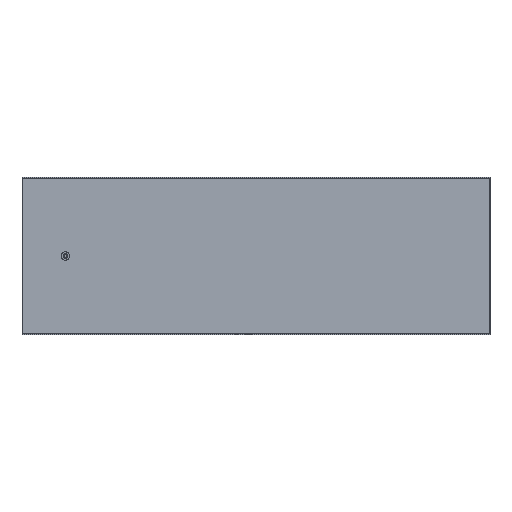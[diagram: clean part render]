
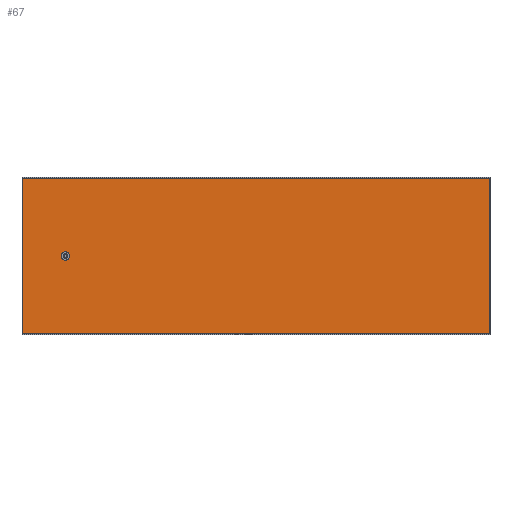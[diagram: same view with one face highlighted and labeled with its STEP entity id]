
A CAD part, front view. The second image highlights one B-rep face of the part: STEP entity #67.
In plain terms, the highlighted planar face has unit normal (0, -1, 0).
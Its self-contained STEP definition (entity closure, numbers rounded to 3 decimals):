
#67 = ADVANCED_FACE( '', ( #138, #139 ), #140, .F. );
#138 = FACE_BOUND( '', #211, .T. );
#139 = FACE_OUTER_BOUND( '', #212, .T. );
#140 = PLANE( '', #213 );
#211 = EDGE_LOOP( '', ( #332 ) );
#212 = EDGE_LOOP( '', ( #333, #334, #335, #336 ) );
#213 = AXIS2_PLACEMENT_3D( '', #337, #338, #339 );
#332 = ORIENTED_EDGE( '', *, *, #415, .F. );
#333 = ORIENTED_EDGE( '', *, *, #388, .T. );
#334 = ORIENTED_EDGE( '', *, *, #399, .T. );
#335 = ORIENTED_EDGE( '', *, *, #418, .F. );
#336 = ORIENTED_EDGE( '', *, *, #410, .F. );
#337 = CARTESIAN_POINT( '', ( -397.5, 56.5, 134. ) );
#338 = DIRECTION( '', ( 0., 1., 0. ) );
#339 = DIRECTION( '', ( 0., 0., 1. ) );
#388 = EDGE_CURVE( '', #448, #446, #449, .T. );
#399 = EDGE_CURVE( '', #446, #463, #465, .T. );
#410 = EDGE_CURVE( '', #448, #479, #480, .T. );
#415 = EDGE_CURVE( '', #486, #486, #487, .F. );
#418 = EDGE_CURVE( '', #479, #463, #490, .T. );
#446 = VERTEX_POINT( '', #526 );
#448 = VERTEX_POINT( '', #529 );
#449 = LINE( '', #530, #531 );
#463 = VERTEX_POINT( '', #552 );
#465 = LINE( '', #555, #556 );
#479 = VERTEX_POINT( '', #575 );
#480 = LINE( '', #576, #577 );
#486 = VERTEX_POINT( '', #584 );
#487 = CIRCLE( '', #585, 4.5 );
#490 = LINE( '', #588, #589 );
#526 = CARTESIAN_POINT( '', ( -397.5, 56.5, 132.5 ) );
#529 = CARTESIAN_POINT( '', ( 397.5, 56.5, 132.5 ) );
#530 = CARTESIAN_POINT( '', ( 399., 56.5, 132.5 ) );
#531 = VECTOR( '', #614, 1000. );
#552 = CARTESIAN_POINT( '', ( -397.5, 56.5, -132.5 ) );
#555 = CARTESIAN_POINT( '', ( -397.5, 56.5, 134. ) );
#556 = VECTOR( '', #623, 1000. );
#575 = CARTESIAN_POINT( '', ( 397.5, 56.5, -132.5 ) );
#576 = CARTESIAN_POINT( '', ( 397.5, 56.5, 134. ) );
#577 = VECTOR( '', #632, 1000. );
#584 = CARTESIAN_POINT( '', ( -325., 56.5, 4.5 ) );
#585 = AXIS2_PLACEMENT_3D( '', #637, #638, #639 );
#588 = CARTESIAN_POINT( '', ( 399., 56.5, -132.5 ) );
#589 = VECTOR( '', #640, 1000. );
#614 = DIRECTION( '', ( -1., 0., 0. ) );
#623 = DIRECTION( '', ( 0., 0., -1. ) );
#632 = DIRECTION( '', ( 0., 0., -1. ) );
#637 = CARTESIAN_POINT( '', ( -325., 56.5, 0. ) );
#638 = DIRECTION( '', ( 0., 1., 0. ) );
#639 = DIRECTION( '', ( 0., 0., 1. ) );
#640 = DIRECTION( '', ( -1., 0., 0. ) );
